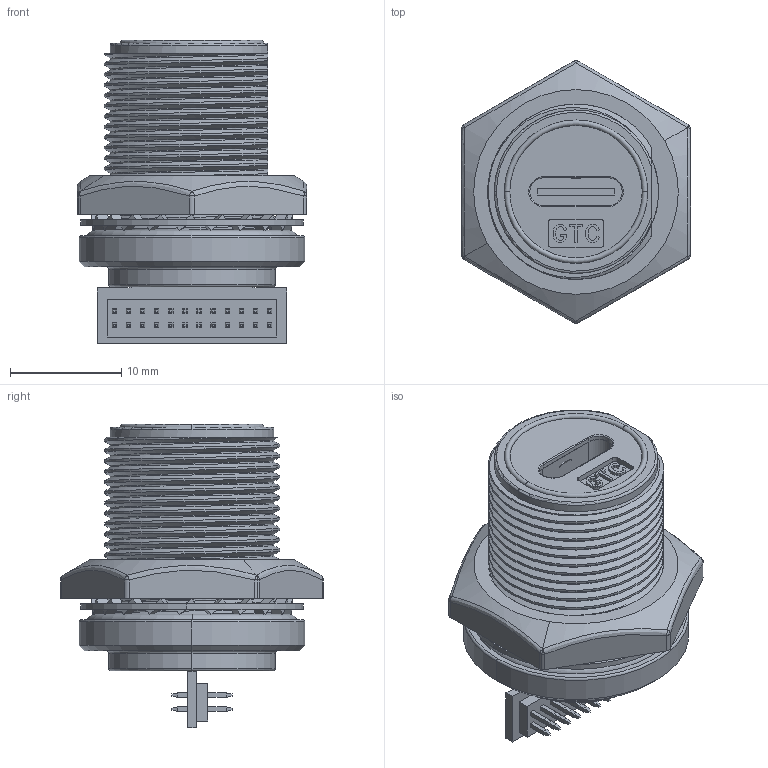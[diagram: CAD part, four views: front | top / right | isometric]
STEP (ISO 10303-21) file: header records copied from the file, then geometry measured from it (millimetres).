
FILE_DESCRIPTION (( 'STEP AP203' ), '1' );
FILE_NAME ('GT21C300-20.STEP', '2018-08-21T01:01:47', ( '' ), ( '' ), 'SwSTEP 2.0', 'SolidWorks 2012', '' );
FILE_SCHEMA (( 'CONFIG_CONTROL_DESIGN' ));
Length unit declared in the file: millimetre
Products named in the file (10): GT21C300-20; 6521C-00001; GLUE; TYPE C 母頭 DIP; 24 Pin header-1; 67214-00110; 58225-22002; 65214-00010; 66214-00010; 6021C-3ZA01
Assembly tree (9 placements, depth 2):
  GT21C300-20
    6021C-3ZA01
    58225-22002
    67214-00110
    66214-00010
    65214-00010
    TYPE C 母頭 DIP
    GLUE
    6521C-00001
    24 Pin header-1
Bounding box: 20.6 x 23.63 x 27.25 mm (x, y, z)
Volume: 4835.2 mm3; surface area: 6798.4 mm2
Topology: 9 solids, 9 shells, 1103 faces, 2683 edges, 1652 vertices
Faces by surface type: plane 722, cylinder 237, bspline 97, torus 25, sphere 14, cone 8
Entity records: 73123 total; most frequent: CARTESIAN_POINT 47719, ORIENTED_EDGE 5358, DIRECTION 4595, EDGE_CURVE 2679, LINE 1731, VECTOR 1731, VERTEX_POINT 1652, AXIS2_PLACEMENT_3D 1432
